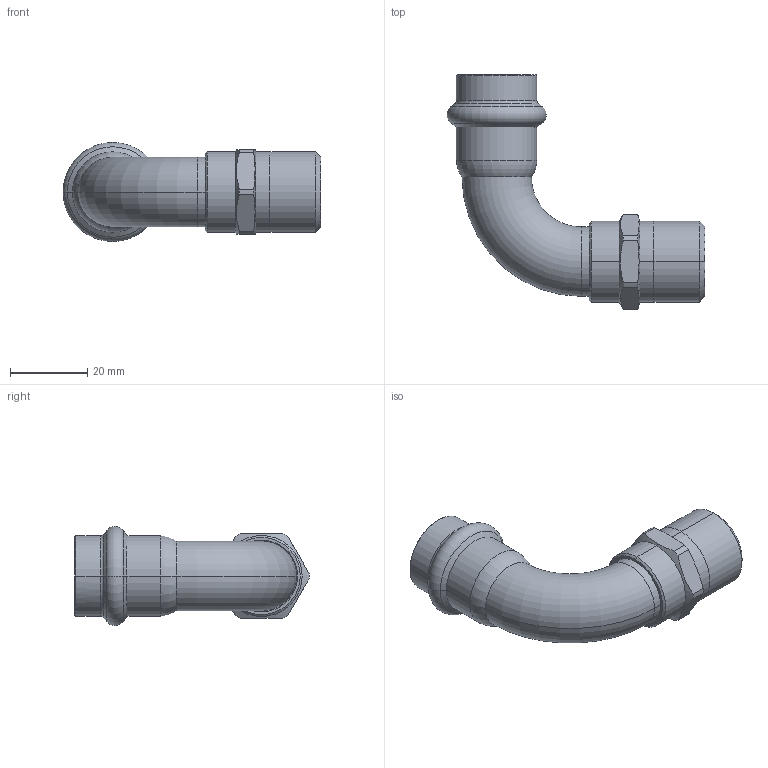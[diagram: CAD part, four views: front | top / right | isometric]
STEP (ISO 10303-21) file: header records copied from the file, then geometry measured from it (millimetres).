
FILE_DESCRIPTION(('CoCreate Modeling STEP Export'),'2;1');
FILE_NAME('8092GVW1812.stp','2013-03-05T11:22:40',(''),(''),'CoCreate Modeling STEP processor for AP214 (Solid Model)','CoCreate Modeling 17.00A 17-Jun-2010 (C) Parametric Technology GmbH','');
FILE_SCHEMA(('AUTOMOTIVE_DESIGN { 1 0 10303 214 1 1 1 1 }'));
Length unit declared in the file: millimetre
Products named in the file (2): 8092GVW1812
Assembly tree (1 placements, depth 2):
  8092GVW1812
    8092GVW1812
Bounding box: 66.85 x 60.73 x 25.7 mm (x, y, z)
Volume: 10657.2 mm3; surface area: 11357.9 mm2
Topology: 1 solids, 1 shells, 80 faces, 179 edges, 105 vertices
Faces by surface type: cylinder 32, cone 22, torus 14, plane 12
Entity records: 2520 total; most frequent: CARTESIAN_POINT 963, ORIENTED_EDGE 358, DIRECTION 256, EDGE_CURVE 179, VERTEX_POINT 105, AXIS2_PLACEMENT_3D 98, EDGE_LOOP 86, FACE_OUTER_BOUND 80
